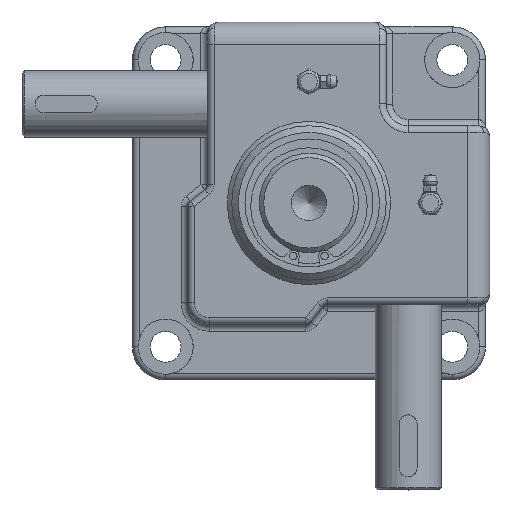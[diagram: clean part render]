
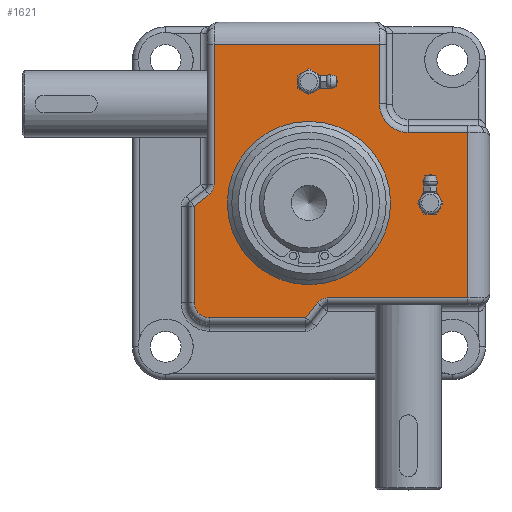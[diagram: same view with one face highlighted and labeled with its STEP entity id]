
A CAD part, top view. The second image highlights one B-rep face of the part: STEP entity #1621.
In plain terms, the highlighted planar face has unit normal (0, 0, 1).
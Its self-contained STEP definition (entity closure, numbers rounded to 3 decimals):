
#1621=ADVANCED_FACE('',(#4556,#4557,#4558,#4559),#4560,.T.);
#4556=FACE_OUTER_BOUND('',#9777,.T.);
#4557=FACE_BOUND('',#9778,.T.);
#4558=FACE_BOUND('',#9779,.T.);
#4559=FACE_BOUND('',#9780,.T.);
#4560=PLANE('',#9781);
#9777=EDGE_LOOP('',(#17226,#17227,#17228,#17229,#17230,#17231,#17232,#17233,#17234,#17235,#17236,#17237,#17238,#17239));
#9778=EDGE_LOOP('',(#17240));
#9779=EDGE_LOOP('',(#17241));
#9780=EDGE_LOOP('',(#17242));
#9781=AXIS2_PLACEMENT_3D('',#17243,#17244,#17245);
#17226=ORIENTED_EDGE('',*,*,#32912,.T.);
#17227=ORIENTED_EDGE('',*,*,#33270,.T.);
#17228=ORIENTED_EDGE('',*,*,#33390,.T.);
#17229=ORIENTED_EDGE('',*,*,#33391,.T.);
#17230=ORIENTED_EDGE('',*,*,#33167,.T.);
#17231=ORIENTED_EDGE('',*,*,#33321,.T.);
#17232=ORIENTED_EDGE('',*,*,#33029,.T.);
#17233=ORIENTED_EDGE('',*,*,#33273,.T.);
#17234=ORIENTED_EDGE('',*,*,#33392,.T.);
#17235=ORIENTED_EDGE('',*,*,#33393,.T.);
#17236=ORIENTED_EDGE('',*,*,#32929,.T.);
#17237=ORIENTED_EDGE('',*,*,#33394,.T.);
#17238=ORIENTED_EDGE('',*,*,#33395,.T.);
#17239=ORIENTED_EDGE('',*,*,#33396,.T.);
#17240=ORIENTED_EDGE('',*,*,#33397,.T.);
#17241=ORIENTED_EDGE('',*,*,#33398,.F.);
#17242=ORIENTED_EDGE('',*,*,#33399,.F.);
#17243=CARTESIAN_POINT('',(0.0,0.0,37.5));
#17244=DIRECTION('',(0.,0.,1.0));
#17245=DIRECTION('',(1.0,0.,0.));
#32912=EDGE_CURVE('',#39450,#39230,#39451,.T.);
#32929=EDGE_CURVE('',#39472,#39477,#39479,.T.);
#33029=EDGE_CURVE('',#39642,#39647,#39649,.T.);
#33167=EDGE_CURVE('',#39021,#39269,#39891,.T.);
#33270=EDGE_CURVE('',#39230,#40039,#40041,.T.);
#33273=EDGE_CURVE('',#39647,#40044,#40046,.T.);
#33321=EDGE_CURVE('',#39269,#39642,#40114,.T.);
#33390=EDGE_CURVE('',#40039,#40216,#40217,.T.);
#33391=EDGE_CURVE('',#40216,#39021,#40218,.T.);
#33392=EDGE_CURVE('',#40044,#40219,#40220,.T.);
#33393=EDGE_CURVE('',#40219,#39472,#40221,.T.);
#33394=EDGE_CURVE('',#39477,#40222,#40223,.T.);
#33395=EDGE_CURVE('',#40222,#40224,#40225,.T.);
#33396=EDGE_CURVE('',#40224,#39450,#40226,.T.);
#33397=EDGE_CURVE('',#40227,#40227,#40228,.T.);
#33398=EDGE_CURVE('',#40229,#40229,#40230,.T.);
#33399=EDGE_CURVE('',#40231,#40231,#40232,.T.);
#39021=VERTEX_POINT('',#49796);
#39230=VERTEX_POINT('',#50388);
#39269=VERTEX_POINT('',#50460);
#39450=VERTEX_POINT('',#50700);
#39451=LINE('',#50701,#50702);
#39472=VERTEX_POINT('',#50783);
#39477=VERTEX_POINT('',#50789);
#39479=LINE('',#50791,#50792);
#39642=VERTEX_POINT('',#51006);
#39647=VERTEX_POINT('',#51011);
#39649=CIRCLE('',#51013,6.0);
#39891=LINE('',#51313,#51314);
#40039=VERTEX_POINT('',#51694);
#40041=LINE('',#51696,#51697);
#40044=VERTEX_POINT('',#51701);
#40046=LINE('',#51703,#51704);
#40114=LINE('',#51831,#51832);
#40216=VERTEX_POINT('',#51962);
#40217=CIRCLE('',#51963,13.0);
#40218=LINE('',#51964,#51965);
#40219=VERTEX_POINT('',#51966);
#40220=LINE('',#51967,#51968);
#40221=CIRCLE('',#51969,7.0);
#40222=VERTEX_POINT('',#51970);
#40223=LINE('',#51971,#51972);
#40224=VERTEX_POINT('',#51973);
#40225=CIRCLE('',#51974,6.0);
#40226=LINE('',#51975,#51976);
#40227=VERTEX_POINT('',#51977);
#40228=CIRCLE('',#51978,37.0);
#40229=VERTEX_POINT('',#51979);
#40230=CIRCLE('',#51980,4.0);
#40231=VERTEX_POINT('',#51981);
#40232=CIRCLE('',#51982,4.0);
#49796=CARTESIAN_POINT('',(32.0,72.0,37.5));
#50388=CARTESIAN_POINT('',(72.0,32.0,37.5));
#50460=CARTESIAN_POINT('',(-43.0,72.0,37.5));
#50700=CARTESIAN_POINT('',(72.0,-43.0,37.5));
#50701=CARTESIAN_POINT('',(72.0,13.5,37.5));
#50702=VECTOR('',#65683,1.0);
#50783=CARTESIAN_POINT('',(-45.,-52.0,37.5));
#50789=CARTESIAN_POINT('',(-1.463,-52.0,37.5));
#50791=CARTESIAN_POINT('',(8.5,-52.0,37.5));
#50792=VECTOR('',#65706,1.0);
#51006=CARTESIAN_POINT('',(-43.0,8.495,37.5));
#51011=CARTESIAN_POINT('',(-45.306,3.767,37.5));
#51013=AXIS2_PLACEMENT_3D('',#65902,#65903,#65904);
#51313=CARTESIAN_POINT('',(8.5,72.0,37.5));
#51314=VECTOR('',#66203,1.0);
#51694=CARTESIAN_POINT('',(45.0,32.0,37.5));
#51696=CARTESIAN_POINT('',(8.5,32.0,37.5));
#51697=VECTOR('',#66379,1.0);
#51701=CARTESIAN_POINT('',(-52.0,-1.463,37.5));
#51703=CARTESIAN_POINT('',(-2.93,36.874,37.5));
#51704=VECTOR('',#66384,1.0);
#51831=CARTESIAN_POINT('',(-43.0,8.5,37.5));
#51832=VECTOR('',#66481,1.0);
#51962=CARTESIAN_POINT('',(32.0,45.,37.5));
#51963=AXIS2_PLACEMENT_3D('',#66630,#66631,#66632);
#51964=CARTESIAN_POINT('',(32.0,8.5,37.5));
#51965=VECTOR('',#66633,1.0);
#51966=CARTESIAN_POINT('',(-52.0,-45.0,37.5));
#51967=CARTESIAN_POINT('',(-52.0,8.5,37.5));
#51968=VECTOR('',#66634,1.0);
#51969=AXIS2_PLACEMENT_3D('',#66635,#66636,#66637);
#51970=CARTESIAN_POINT('',(3.767,-45.306,37.5));
#51971=CARTESIAN_POINT('',(36.874,-2.93,37.5));
#51972=VECTOR('',#66638,1.0);
#51973=CARTESIAN_POINT('',(8.495,-43.0,37.5));
#51974=AXIS2_PLACEMENT_3D('',#66639,#66640,#66641);
#51975=CARTESIAN_POINT('',(8.5,-43.0,37.5));
#51976=VECTOR('',#66642,1.0);
#51977=CARTESIAN_POINT('',(37.0,0.,37.5));
#51978=AXIS2_PLACEMENT_3D('',#66643,#66644,#66645);
#51979=CARTESIAN_POINT('',(59.0,0.,37.5));
#51980=AXIS2_PLACEMENT_3D('',#66646,#66647,#66648);
#51981=CARTESIAN_POINT('',(4.0,55.0,37.5));
#51982=AXIS2_PLACEMENT_3D('',#66649,#66650,#66651);
#65683=DIRECTION('',(0.0,1.0,0.));
#65706=DIRECTION('',(1.0,0.0,0.));
#65902=CARTESIAN_POINT('',(-49.0,8.495,37.5));
#65903=DIRECTION('',(0.,0.,-1.0));
#65904=DIRECTION('',(1.0,0.,0.));
#66203=DIRECTION('',(-1.0,0.0,0.));
#66379=DIRECTION('',(-1.0,0.0,0.));
#66384=DIRECTION('',(-0.788,-0.616,0.));
#66481=DIRECTION('',(0.0,-1.0,0.));
#66630=CARTESIAN_POINT('',(45.0,45.0,37.5));
#66631=DIRECTION('',(0.0,0.0,-1.0));
#66632=DIRECTION('',(1.0,0.0,0.0));
#66633=DIRECTION('',(0.0,1.0,0.));
#66634=DIRECTION('',(0.0,-1.0,0.));
#66635=CARTESIAN_POINT('',(-45.0,-45.0,37.5));
#66636=DIRECTION('',(0.0,0.0,1.0));
#66637=DIRECTION('',(1.0,0.0,0.0));
#66638=DIRECTION('',(0.616,0.788,0.));
#66639=CARTESIAN_POINT('',(8.495,-49.0,37.5));
#66640=DIRECTION('',(0.0,0.0,-1.0));
#66641=DIRECTION('',(1.0,0.0,0.0));
#66642=DIRECTION('',(1.0,0.0,0.));
#66643=CARTESIAN_POINT('',(0.0,0.,37.5));
#66644=DIRECTION('',(0.,0.,-1.0));
#66645=DIRECTION('',(1.0,0.,0.));
#66646=CARTESIAN_POINT('',(55.0,0.,37.5));
#66647=DIRECTION('',(0.,0.,1.0));
#66648=DIRECTION('',(1.0,0.,0.));
#66649=CARTESIAN_POINT('',(0.0,55.0,37.5));
#66650=DIRECTION('',(0.,0.,1.0));
#66651=DIRECTION('',(1.0,0.,0.));
